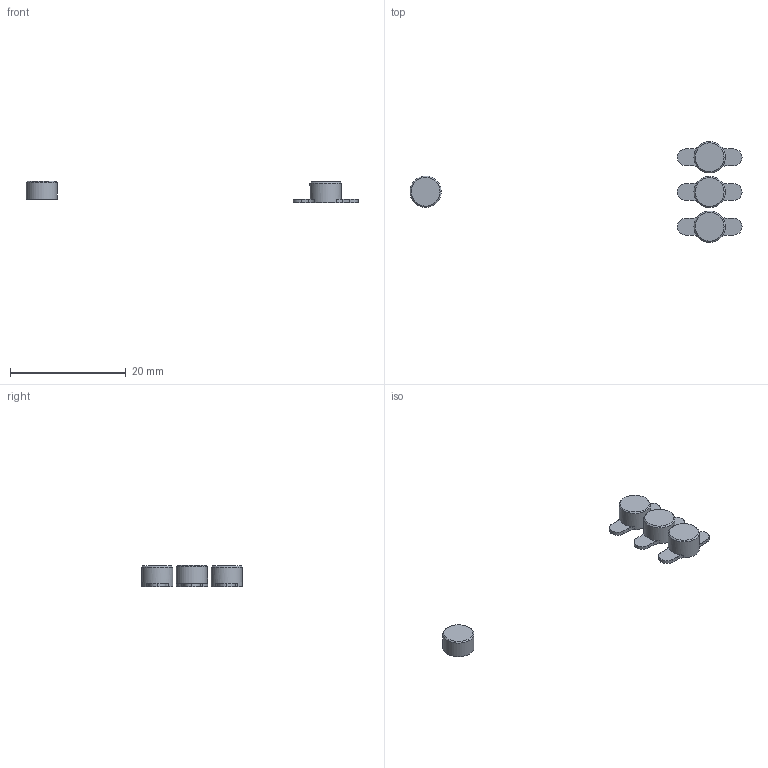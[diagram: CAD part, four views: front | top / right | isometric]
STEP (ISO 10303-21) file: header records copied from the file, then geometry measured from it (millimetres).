
FILE_DESCRIPTION(/* description */ (''),/* implementation_level */ '2;1');
FILE_NAME(/* name */ 'koxc.step',/* time_stamp */ '2025-07-12T22:43:07+02:00',/* author */ (''),/* organization */ (''),/* preprocessor_version */ 'ST-DEVELOPER v20.1',/* originating_system */ 'Autodesk Translation Framework v14.10.0.0',/* authorisation */ '');
FILE_SCHEMA (('AUTOMOTIVE_DESIGN { 1 0 10303 214 3 1 1 }'));
Length unit declared in the file: millimetre
Products named in the file (1): MT01
Bounding box: 57.4 x 17.4 x 3.7 mm (x, y, z)
Volume: 334.2 mm3; surface area: 545.2 mm2
Topology: 4 solids, 4 shells, 75 faces, 191 edges, 126 vertices
Faces by surface type: plane 38, cylinder 33, cone 4
Full cylindrical faces by diameter (mm): 4 x1, 5.4 x4
Entity records: 2521 total; most frequent: DIRECTION 425, CARTESIAN_POINT 393, ORIENTED_EDGE 382, EDGE_CURVE 191, AXIS2_PLACEMENT_3D 158, VERTEX_POINT 126, LINE 109, VECTOR 109
